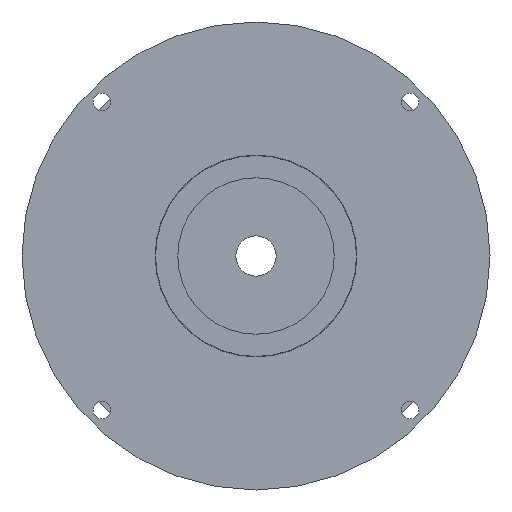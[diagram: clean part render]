
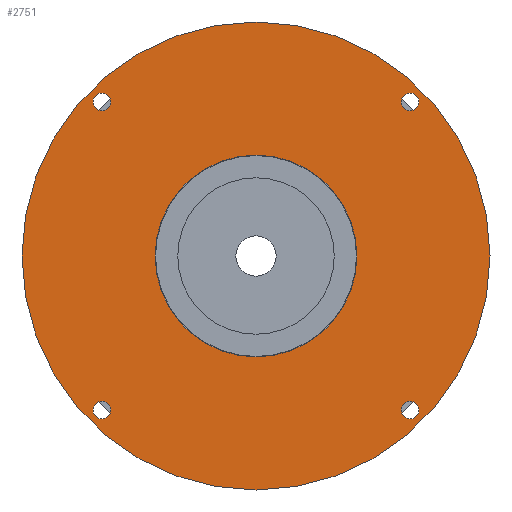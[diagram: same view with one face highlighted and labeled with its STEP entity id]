
A CAD part, left-side view. The second image highlights one B-rep face of the part: STEP entity #2751.
In plain terms, the highlighted planar face has unit normal (-1, 0, 0).
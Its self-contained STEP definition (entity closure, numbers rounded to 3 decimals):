
#433=FACE_BOUND('',#926,.T.);
#434=FACE_BOUND('',#927,.T.);
#435=FACE_BOUND('',#928,.T.);
#436=FACE_BOUND('',#929,.T.);
#437=FACE_BOUND('',#930,.T.);
#623=FACE_OUTER_BOUND('',#925,.T.);
#925=EDGE_LOOP('',(#2323));
#926=EDGE_LOOP('',(#2324));
#927=EDGE_LOOP('',(#2325));
#928=EDGE_LOOP('',(#2326));
#929=EDGE_LOOP('',(#2327));
#930=EDGE_LOOP('',(#2328));
#1136=CIRCLE('',#3125,5.5);
#1138=CIRCLE('',#3128,5.5);
#1140=CIRCLE('',#3131,5.5);
#1142=CIRCLE('',#3134,5.5);
#1144=CIRCLE('',#3138,145.);
#1157=CIRCLE('',#3164,62.5);
#1358=VERTEX_POINT('',#5129);
#1360=VERTEX_POINT('',#5134);
#1362=VERTEX_POINT('',#5139);
#1364=VERTEX_POINT('',#5144);
#1366=VERTEX_POINT('',#5150);
#1379=VERTEX_POINT('',#5189);
#1671=EDGE_CURVE('',#1358,#1358,#1136,.T.);
#1673=EDGE_CURVE('',#1360,#1360,#1138,.T.);
#1675=EDGE_CURVE('',#1362,#1362,#1140,.T.);
#1677=EDGE_CURVE('',#1364,#1364,#1142,.T.);
#1679=EDGE_CURVE('',#1366,#1366,#1144,.T.);
#1692=EDGE_CURVE('',#1379,#1379,#1157,.T.);
#2323=ORIENTED_EDGE('',*,*,#1679,.F.);
#2324=ORIENTED_EDGE('',*,*,#1671,.T.);
#2325=ORIENTED_EDGE('',*,*,#1673,.T.);
#2326=ORIENTED_EDGE('',*,*,#1675,.T.);
#2327=ORIENTED_EDGE('',*,*,#1677,.T.);
#2328=ORIENTED_EDGE('',*,*,#1692,.T.);
#2376=PLANE('',#3165);
#2751=ADVANCED_FACE('',(#623,#433,#434,#435,#436,#437),#2376,.T.);
#3125=AXIS2_PLACEMENT_3D('',#5130,#3983,#3984);
#3128=AXIS2_PLACEMENT_3D('',#5135,#3989,#3990);
#3131=AXIS2_PLACEMENT_3D('',#5140,#3995,#3996);
#3134=AXIS2_PLACEMENT_3D('',#5145,#4001,#4002);
#3138=AXIS2_PLACEMENT_3D('',#5151,#4009,#4010);
#3164=AXIS2_PLACEMENT_3D('',#5190,#4061,#4062);
#3165=AXIS2_PLACEMENT_3D('',#5191,#4063,#4064);
#3983=DIRECTION('center_axis',(1.,0.,0.));
#3984=DIRECTION('ref_axis',(0.,0.,-1.));
#3989=DIRECTION('center_axis',(1.,0.,0.));
#3990=DIRECTION('ref_axis',(0.,0.,-1.));
#3995=DIRECTION('center_axis',(1.,0.,0.));
#3996=DIRECTION('ref_axis',(0.,0.,-1.));
#4001=DIRECTION('center_axis',(1.,0.,0.));
#4002=DIRECTION('ref_axis',(0.,0.,-1.));
#4009=DIRECTION('center_axis',(1.,0.,0.));
#4010=DIRECTION('ref_axis',(0.,0.,-1.));
#4061=DIRECTION('center_axis',(1.,0.,0.));
#4062=DIRECTION('ref_axis',(0.,0.,-1.));
#4063=DIRECTION('center_axis',(-1.,0.,0.));
#4064=DIRECTION('ref_axis',(0.,0.,1.));
#5129=CARTESIAN_POINT('',(-17.5,-95.459,-89.959));
#5130=CARTESIAN_POINT('Origin',(-17.5,-95.459,-95.459));
#5134=CARTESIAN_POINT('',(-17.5,95.459,100.959));
#5135=CARTESIAN_POINT('Origin',(-17.5,95.459,95.459));
#5139=CARTESIAN_POINT('',(-17.5,-95.459,100.959));
#5140=CARTESIAN_POINT('Origin',(-17.5,-95.459,95.459));
#5144=CARTESIAN_POINT('',(-17.5,95.459,-89.959));
#5145=CARTESIAN_POINT('Origin',(-17.5,95.459,-95.459));
#5150=CARTESIAN_POINT('',(-17.5,145.,0.));
#5151=CARTESIAN_POINT('Origin',(-17.5,0.,0.));
#5189=CARTESIAN_POINT('',(-17.5,62.5,0.));
#5190=CARTESIAN_POINT('Origin',(-17.5,0.,0.));
#5191=CARTESIAN_POINT('Origin',(-17.5,145.,0.));
